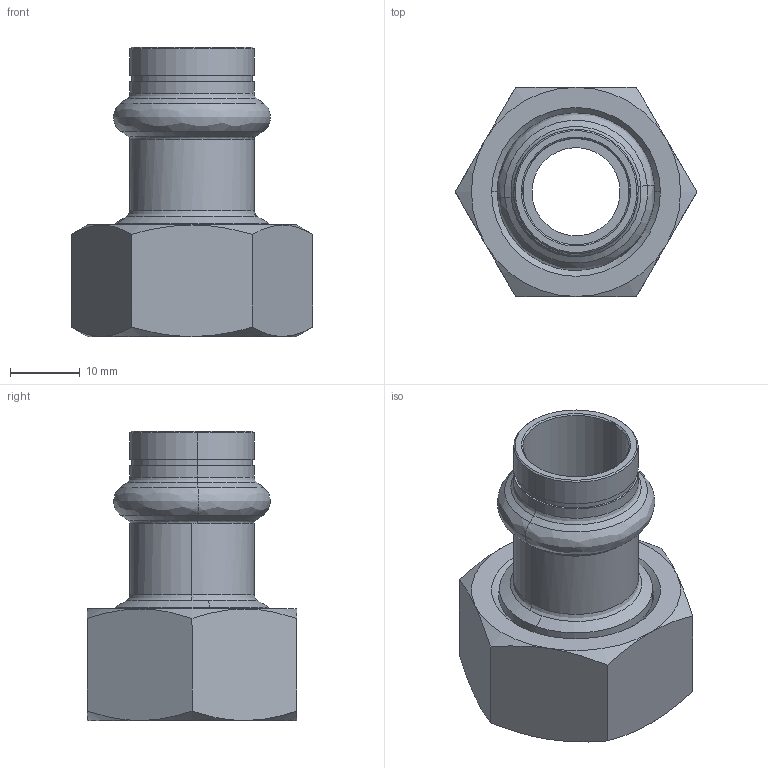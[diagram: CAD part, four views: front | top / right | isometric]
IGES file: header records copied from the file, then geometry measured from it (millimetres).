
Start section: Elysium IGES Interface
Global section: file name: C:\Users\Wallenburg\Desktop\3d modellen sudo\S-Pr VP\SP6359GV\6359GVW1534.igs; native system: CoCreate Modeling 17.00A  17-Jun-2010; preprocessor: CoCreate IGES_3D V2.2; author: Unknown; organization: Unknown; date: 20130124.125933; units: millimetre
Bounding box: 34.64 x 30 x 41.46 mm (x, y, z)
Volume: 9481.1 mm3; surface area: 7706.6 mm2
Topology: 2 solids, 2 shells, 86 faces, 196 edges, 118 vertices
Faces by surface type: bspline 86
